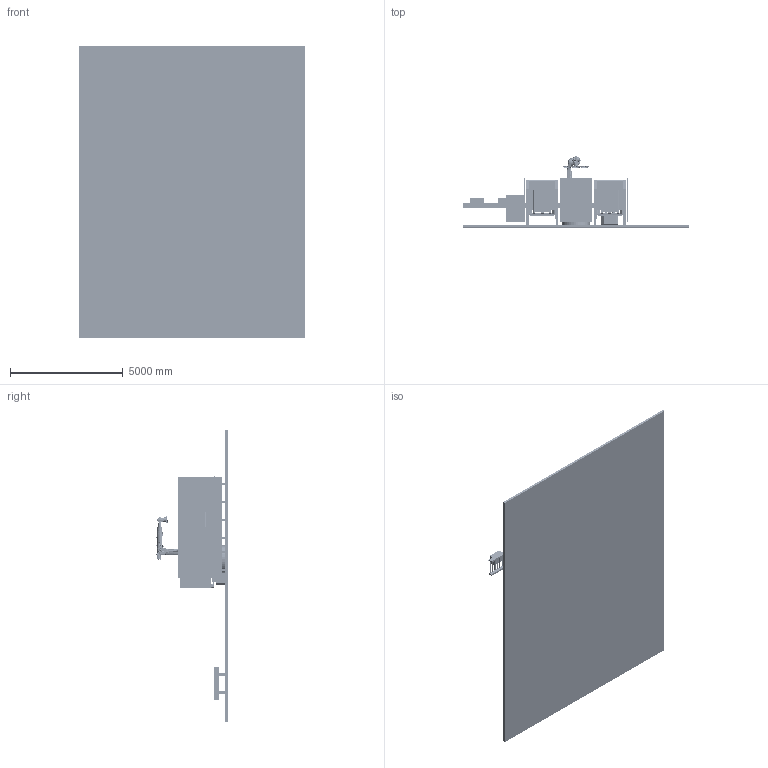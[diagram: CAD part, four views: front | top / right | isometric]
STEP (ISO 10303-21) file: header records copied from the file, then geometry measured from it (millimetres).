
FILE_DESCRIPTION(/* description */ ('Pallhantering'),/* implementation_level */ '2;1');
FILE_NAME(/* name */ 'Z:\14. CAD\Projekt\TMH - Pallhantering\Outputs\TMH-Pallhantering-003.stp',/* time_stamp */ '2023-09-08T10:58:10+02:00',/* author */ ('Christian Lundahl'),/* organization */ ('CS OptimalaSystem AB'),/* preprocessor_version */ 'ST-DEVELOPER v19',/* originating_system */ 'Autodesk Inventor 2023',/* authorisation */ '');
FILE_SCHEMA (('AUTOMOTIVE_DESIGN { 1 0 10303 214 3 1 1 }'));
Products named in the file (24): TLA; MaterialConveyor; Floor; Conveyor; PalletSupplyMockup; PalletStack; Pfen43C419573iv4; PfenBA3C9FB60bos; RobotColumnMockup; Boxes; SuctionTool; SuctionTool-Base; SuctionTool-CupsArray; SuctionTool-Cup; ?; BoxesOnPallet; BoxesOnPalletAlt; BoxesAtStop; BoxC; AutobotMockup; Lastpall Euro 1200x800; ConveyorHandover; Routes; GuardFence
Assembly tree (213 placements, depth 4):
  TLA
    MaterialConveyor
    Floor
    Conveyor  x2
    ConveyorHandover  x3
    PalletSupplyMockup  x2
    PalletStack  x2
      Lastpall Euro 1200x800
    Pfen43C419573iv4
    PfenBA3C9FB60bos
    RobotColumnMockup
    Lastpall Euro 1200x800  x4
    Boxes
      BoxC  x3
    SuctionTool
      SuctionTool-Base
      SuctionTool-CupsArray
        SuctionTool-Cup  x144
    ?
    BoxesOnPallet
      BoxC  x8
    BoxesOnPalletAlt
      BoxC  x20
    BoxesAtStop
      BoxC  x2
    AutobotMockup
    Routes
    GuardFence
Bounding box: 10000 x 3153 x 13000 mm (x, y, z)
Volume: 20687286078.3 mm3; surface area: 527560279.7 mm2
Topology: 946 solids, 999 shells, 28119 faces, 59068 edges, 33979 vertices
Faces by surface type: plane 19311, cylinder 3353, bspline 2234, torus 1860, cone 1248, sphere 113
Full cylindrical faces by diameter (mm): 2 x1, 3.7 x2, 4 x2, 4.3 x2, 4.8 x2, 5 x10, 5.3 x4, 5.4 x1, 5.5 x10, 6 x38, 6.4 x18, 6.5 x1, 6.6 x10, 6.8 x8, 7 x9, 8 x39, 8.4 x9, 8.5 x30, 8.7 x2, 8.9 x1, 9 x12, 9.5 x2, 9.8 x4, 10 x236, 11 x3, 12 x276, 12.5 x1, 13 x53, 14 x16, 15 x5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
Entity records: 608254 total; most frequent: CARTESIAN_POINT 327313, ORIENTED_EDGE 59082, DIRECTION 55120, EDGE_CURVE 29541, AXIS2_PLACEMENT_3D 22003, VERTEX_POINT 18387, EDGE_LOOP 13656, FACE_OUTER_BOUND 12505
